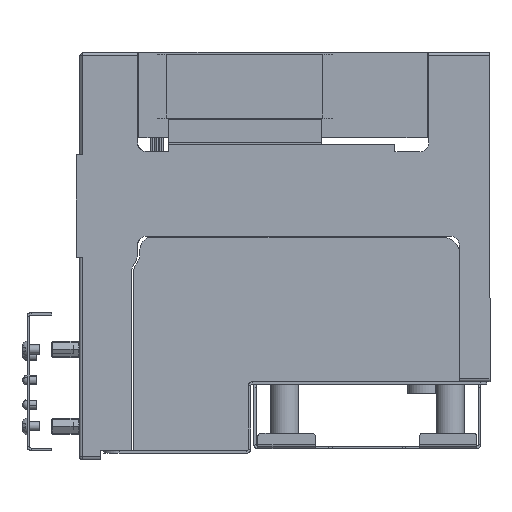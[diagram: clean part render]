
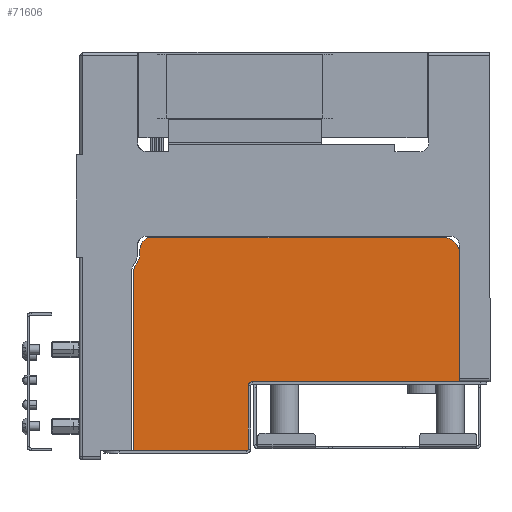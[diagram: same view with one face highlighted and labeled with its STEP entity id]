
A CAD part, left-side view. The second image highlights one B-rep face of the part: STEP entity #71606.
In plain terms, the highlighted planar face has unit normal (-1, 0, 0).
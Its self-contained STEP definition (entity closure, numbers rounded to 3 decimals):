
#1093 = CARTESIAN_POINT ( 'NONE',  ( -239., -63., 65.3 ) ) ;
#1491 = CARTESIAN_POINT ( 'NONE',  ( -239., 38.2, 70.3 ) ) ;
#1945 = AXIS2_PLACEMENT_3D ( 'NONE', #97386, #8342, #53395 ) ;
#2503 = EDGE_CURVE ( 'NONE', #106009, #13900, #103092, .T. ) ;
#2706 = FACE_OUTER_BOUND ( 'NONE', #100047, .T. ) ;
#3571 = VERTEX_POINT ( 'NONE', #98909 ) ;
#4203 = LINE ( 'NONE', #83343, #45113 ) ;
#6193 = VERTEX_POINT ( 'NONE', #80111 ) ;
#6427 = LINE ( 'NONE', #87883, #107939 ) ;
#7565 = DIRECTION ( 'NONE',  ( 0., 1., 0. ) ) ;
#8342 = DIRECTION ( 'NONE',  ( -1., 0., 0. ) ) ;
#11442 = VERTEX_POINT ( 'NONE', #44907 ) ;
#12388 = DIRECTION ( 'NONE',  ( 1., 0., 0. ) ) ;
#12693 = CARTESIAN_POINT ( 'NONE',  ( -239., 1.3, 1.3 ) ) ;
#12762 = EDGE_CURVE ( 'NONE', #54635, #114571, #42969, .T. ) ;
#13022 = VERTEX_POINT ( 'NONE', #90778 ) ;
#13337 = CIRCLE ( 'NONE', #15112, 4.5 ) ;
#13900 = VERTEX_POINT ( 'NONE', #38017 ) ;
#14065 = ORIENTED_EDGE ( 'NONE', *, *, #62833, .F. ) ;
#14942 = AXIS2_PLACEMENT_3D ( 'NONE', #12693, #46592, #110590 ) ;
#15112 = AXIS2_PLACEMENT_3D ( 'NONE', #103027, #40803, #58439 ) ;
#16310 = LINE ( 'NONE', #79633, #25946 ) ;
#17261 = DIRECTION ( 'NONE',  ( -1., 0., 0. ) ) ;
#17780 = ORIENTED_EDGE ( 'NONE', *, *, #71788, .F. ) ;
#18248 = EDGE_CURVE ( 'NONE', #11442, #48194, #87782, .T. ) ;
#19557 = VERTEX_POINT ( 'NONE', #91538 ) ;
#21155 = CARTESIAN_POINT ( 'NONE',  ( -239., 1.3, 1.3 ) ) ;
#23233 = EDGE_CURVE ( 'NONE', #99929, #52038, #75030, .T. ) ;
#24023 = DIRECTION ( 'NONE',  ( 0., 1., 0. ) ) ;
#25946 = VECTOR ( 'NONE', #52006, 1000. ) ;
#26074 = DIRECTION ( 'NONE',  ( 1., 0., 0. ) ) ;
#26343 = AXIS2_PLACEMENT_3D ( 'NONE', #1093, #26951, #97259 ) ;
#26951 = DIRECTION ( 'NONE',  ( -1., 0., 0. ) ) ;
#27961 = VECTOR ( 'NONE', #63564, 1000. ) ;
#28043 = ORIENTED_EDGE ( 'NONE', *, *, #38430, .F. ) ;
#29565 = LINE ( 'NONE', #46460, #27961 ) ;
#31938 = EDGE_CURVE ( 'NONE', #114571, #19557, #6427, .T. ) ;
#32807 = CARTESIAN_POINT ( 'NONE',  ( -239., -0.5, 23.3 ) ) ;
#33117 = ORIENTED_EDGE ( 'NONE', *, *, #18248, .F. ) ;
#35795 = ORIENTED_EDGE ( 'NONE', *, *, #23233, .F. ) ;
#38017 = CARTESIAN_POINT ( 'NONE',  ( -239., -63., 70.3 ) ) ;
#38430 = EDGE_CURVE ( 'NONE', #106009, #13022, #4203, .T. ) ;
#39255 = AXIS2_PLACEMENT_3D ( 'NONE', #21155, #12388, #39861 ) ;
#39861 = DIRECTION ( 'NONE',  ( 0., 0., -1. ) ) ;
#40342 = CARTESIAN_POINT ( 'NONE',  ( -239., 1.3, 0.8 ) ) ;
#40803 = DIRECTION ( 'NONE',  ( 1., 0., 0. ) ) ;
#41312 = EDGE_CURVE ( 'NONE', #52038, #54635, #16310, .T. ) ;
#42897 = VECTOR ( 'NONE', #24023, 1000. ) ;
#42969 = CIRCLE ( 'NONE', #39255, 0.5 ) ;
#42997 = CARTESIAN_POINT ( 'NONE',  ( -239., 33.7, 59.2 ) ) ;
#44049 = CARTESIAN_POINT ( 'NONE',  ( -239., -0.5, 23.3 ) ) ;
#44907 = CARTESIAN_POINT ( 'NONE',  ( -239., 38.2, 59.2 ) ) ;
#45113 = VECTOR ( 'NONE', #91524, 1000. ) ;
#45581 = CARTESIAN_POINT ( 'NONE',  ( -239., 37.3, 61.9 ) ) ;
#46026 = PLANE ( 'NONE',  #14942 ) ;
#46460 = CARTESIAN_POINT ( 'NONE',  ( -239., 36.2, 66.2 ) ) ;
#46592 = DIRECTION ( 'NONE',  ( 1., 0., 0. ) ) ;
#46778 = CIRCLE ( 'NONE', #95529, 5.5 ) ;
#48194 = VERTEX_POINT ( 'NONE', #45581 ) ;
#48602 = EDGE_CURVE ( 'NONE', #19557, #11442, #81862, .T. ) ;
#49251 = EDGE_CURVE ( 'NONE', #6193, #111839, #29565, .T. ) ;
#50602 = LINE ( 'NONE', #86433, #58630 ) ;
#52006 = DIRECTION ( 'NONE',  ( 0., 0., -1. ) ) ;
#52038 = VERTEX_POINT ( 'NONE', #107226 ) ;
#53395 = DIRECTION ( 'NONE',  ( 0., 0., -1. ) ) ;
#54134 = DIRECTION ( 'NONE',  ( 0., 0., -1. ) ) ;
#54635 = VERTEX_POINT ( 'NONE', #107208 ) ;
#58439 = DIRECTION ( 'NONE',  ( 0., 0., -1. ) ) ;
#58630 = VECTOR ( 'NONE', #114584, 1000. ) ;
#61782 = CARTESIAN_POINT ( 'NONE',  ( -239., 41.7, 65.2 ) ) ;
#62833 = EDGE_CURVE ( 'NONE', #13022, #99929, #86751, .T. ) ;
#63564 = DIRECTION ( 'NONE',  ( 0., 0., 1. ) ) ;
#67234 = ORIENTED_EDGE ( 'NONE', *, *, #12762, .F. ) ;
#71606 = ADVANCED_FACE ( 'NONE', ( #2706 ), #46026, .F. ) ;
#71788 = EDGE_CURVE ( 'NONE', #48194, #6193, #46778, .T. ) ;
#73065 = DIRECTION ( 'NONE',  ( 0., 0., 1. ) ) ;
#75030 = CIRCLE ( 'NONE', #1945, 1.3 ) ;
#77657 = ORIENTED_EDGE ( 'NONE', *, *, #41312, .F. ) ;
#78929 = EDGE_CURVE ( 'NONE', #111839, #3571, #13337, .T. ) ;
#79440 = DIRECTION ( 'NONE',  ( 0., 0., -1. ) ) ;
#79633 = CARTESIAN_POINT ( 'NONE',  ( -239., 0.8, 1.3 ) ) ;
#80111 = CARTESIAN_POINT ( 'NONE',  ( -239., 36.2, 65.2 ) ) ;
#81862 = LINE ( 'NONE', #1491, #98788 ) ;
#81922 = CARTESIAN_POINT ( 'NONE',  ( -239., 36.2, 66.2 ) ) ;
#83068 = ORIENTED_EDGE ( 'NONE', *, *, #2503, .T. ) ;
#83343 = CARTESIAN_POINT ( 'NONE',  ( -239., -68., 70.3 ) ) ;
#83902 = CARTESIAN_POINT ( 'NONE',  ( -239., -68., 65.3 ) ) ;
#85178 = ORIENTED_EDGE ( 'NONE', *, *, #31938, .F. ) ;
#86433 = CARTESIAN_POINT ( 'NONE',  ( -239., 37., 70.3 ) ) ;
#86751 = LINE ( 'NONE', #32807, #42897 ) ;
#87782 = CIRCLE ( 'NONE', #114082, 4.5 ) ;
#87883 = CARTESIAN_POINT ( 'NONE',  ( -239., 37., 0.8 ) ) ;
#90778 = CARTESIAN_POINT ( 'NONE',  ( -239., -68., 23.3 ) ) ;
#91524 = DIRECTION ( 'NONE',  ( 0., 0., -1. ) ) ;
#91538 = CARTESIAN_POINT ( 'NONE',  ( -239., 38.2, 0.8 ) ) ;
#93389 = ORIENTED_EDGE ( 'NONE', *, *, #48602, .F. ) ;
#93415 = EDGE_CURVE ( 'NONE', #3571, #13900, #50602, .T. ) ;
#95529 = AXIS2_PLACEMENT_3D ( 'NONE', #61782, #17261, #54134 ) ;
#97259 = DIRECTION ( 'NONE',  ( 0., 0., -1. ) ) ;
#97386 = CARTESIAN_POINT ( 'NONE',  ( -239., -0.5, 22. ) ) ;
#98788 = VECTOR ( 'NONE', #73065, 1000. ) ;
#98909 = CARTESIAN_POINT ( 'NONE',  ( -239., 33.555, 70.3 ) ) ;
#99929 = VERTEX_POINT ( 'NONE', #44049 ) ;
#100047 = EDGE_LOOP ( 'NONE', ( #28043, #83068, #110823, #112602, #109934, #17780, #33117, #93389, #85178, #67234, #77657, #35795, #14065 ) ) ;
#103027 = CARTESIAN_POINT ( 'NONE',  ( -239., 31.7, 66.2 ) ) ;
#103092 = CIRCLE ( 'NONE', #26343, 5. ) ;
#106009 = VERTEX_POINT ( 'NONE', #83902 ) ;
#107208 = CARTESIAN_POINT ( 'NONE',  ( -239., 0.8, 1.3 ) ) ;
#107226 = CARTESIAN_POINT ( 'NONE',  ( -239., 0.8, 22. ) ) ;
#107939 = VECTOR ( 'NONE', #7565, 1000. ) ;
#109934 = ORIENTED_EDGE ( 'NONE', *, *, #49251, .F. ) ;
#110590 = DIRECTION ( 'NONE',  ( 0., 0., -1. ) ) ;
#110823 = ORIENTED_EDGE ( 'NONE', *, *, #93415, .F. ) ;
#111839 = VERTEX_POINT ( 'NONE', #81922 ) ;
#112602 = ORIENTED_EDGE ( 'NONE', *, *, #78929, .F. ) ;
#114082 = AXIS2_PLACEMENT_3D ( 'NONE', #42997, #26074, #79440 ) ;
#114571 = VERTEX_POINT ( 'NONE', #40342 ) ;
#114584 = DIRECTION ( 'NONE',  ( 0., -1., 0. ) ) ;
